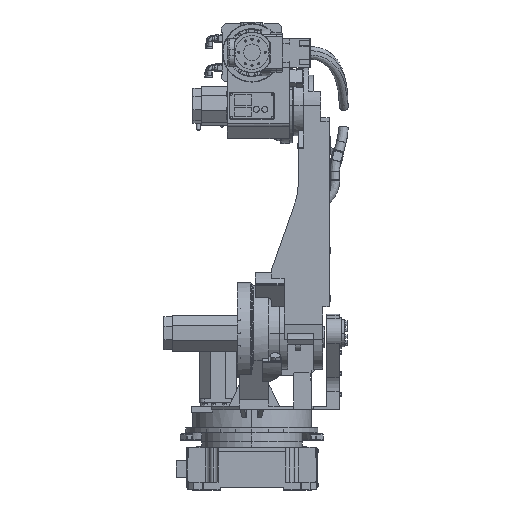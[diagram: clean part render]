
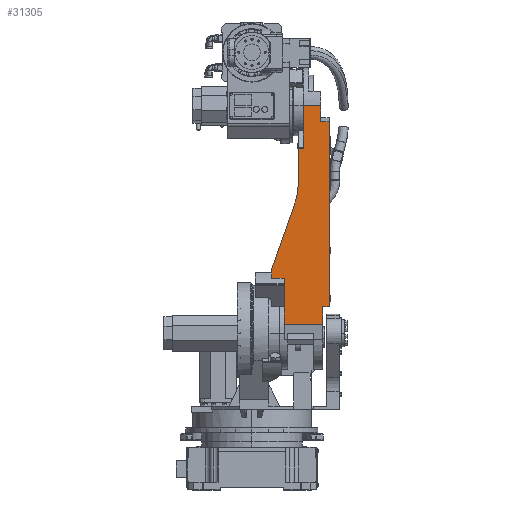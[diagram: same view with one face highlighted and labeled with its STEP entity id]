
A CAD part, top view. The second image highlights one B-rep face of the part: STEP entity #31305.
In plain terms, the highlighted planar face has unit normal (0, 0, 1).
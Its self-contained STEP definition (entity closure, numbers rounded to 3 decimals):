
#4540 = B_SPLINE_CURVE_WITH_KNOTS ( 'NONE', 3,
 ( #34522, #34486, #34510, #34527 ),
 .UNSPECIFIED., .F., .F.,
 ( 4, 4 ),
 ( 0., 1. ),
 .UNSPECIFIED. ) ;
#21334 = ORIENTED_EDGE ( 'NONE', *, *, #33761, .T. ) ;
#21336 = ORIENTED_EDGE ( 'NONE', *, *, #33788, .T. ) ;
#21338 = ORIENTED_EDGE ( 'NONE', *, *, #33694, .T. ) ;
#21341 = ORIENTED_EDGE ( 'NONE', *, *, #33724, .T. ) ;
#21344 = ORIENTED_EDGE ( 'NONE', *, *, #34337, .T. ) ;
#21346 = ORIENTED_EDGE ( 'NONE', *, *, #35472, .T. ) ;
#21348 = ORIENTED_EDGE ( 'NONE', *, *, #35502, .T. ) ;
#21350 = ORIENTED_EDGE ( 'NONE', *, *, #35555, .T. ) ;
#21352 = ORIENTED_EDGE ( 'NONE', *, *, #33832, .T. ) ;
#21355 = ORIENTED_EDGE ( 'NONE', *, *, #33996, .T. ) ;
#21356 = ORIENTED_EDGE ( 'NONE', *, *, #33951, .T. ) ;
#21358 = ORIENTED_EDGE ( 'NONE', *, *, #33741, .T. ) ;
#21361 = ORIENTED_EDGE ( 'NONE', *, *, #34051, .T. ) ;
#21365 = ORIENTED_EDGE ( 'NONE', *, *, #34251, .T. ) ;
#21367 = ORIENTED_EDGE ( 'NONE', *, *, #34207, .T. ) ;
#21370 = ORIENTED_EDGE ( 'NONE', *, *, #34088, .T. ) ;
#21371 = ORIENTED_EDGE ( 'NONE', *, *, #34409, .T. ) ;
#22381 = PLANE ( 'NONE',  #25915 ) ;
#22404 = FACE_OUTER_BOUND ( 'NONE', #95285, .T. ) ;
#22414 = CARTESIAN_POINT ( 'NONE',  ( 370.95, 21.177, 180. ) ) ;
#22415 = DIRECTION ( 'NONE',  ( 0., 0., 1. ) ) ;
#22416 = DIRECTION ( 'NONE',  ( 0., 1., 0. ) ) ;
#25915 = AXIS2_PLACEMENT_3D ( 'NONE', #22414, #22415, #22416 ) ;
#28110 = CARTESIAN_POINT ( 'NONE',  ( 153., 558.42, 180. ) ) ;
#28112 = LINE ( 'NONE', #28110, #28912 ) ;
#28128 = DIRECTION ( 'NONE',  ( 0., -1., 0. ) ) ;
#28221 = CARTESIAN_POINT ( 'NONE',  ( 229.25, 41.84, 180. ) ) ;
#28242 = LINE ( 'NONE', #28221, #28931 ) ;
#28246 = DIRECTION ( 'NONE',  ( 1., 0., 0. ) ) ;
#28269 = LINE ( 'NONE', #28283, #28941 ) ;
#28283 = CARTESIAN_POINT ( 'NONE',  ( 229.25, 874.999, 180. ) ) ;
#28284 = DIRECTION ( 'NONE',  ( -1., 0., 0. ) ) ;
#28413 = LINE ( 'NONE', #28515, #28949 ) ;
#28515 = CARTESIAN_POINT ( 'NONE',  ( 229.25, 258.545, 180. ) ) ;
#28516 = DIRECTION ( 'NONE',  ( 1., 0., 0. ) ) ;
#28576 = CARTESIAN_POINT ( 'NONE',  ( 153., 558.42, 180. ) ) ;
#28581 = LINE ( 'NONE', #28576, #28962 ) ;
#28585 = DIRECTION ( 'NONE',  ( 0., -1., 0. ) ) ;
#28702 = LINE ( 'NONE', #28703, #28988 ) ;
#28703 = CARTESIAN_POINT ( 'NONE',  ( 325., 558.42, 180. ) ) ;
#28704 = DIRECTION ( 'NONE',  ( 0., 1., 0. ) ) ;
#28912 = VECTOR ( 'NONE', #28128, 1000. ) ;
#28931 = VECTOR ( 'NONE', #28246, 1000. ) ;
#28941 = VECTOR ( 'NONE', #28284, 1000. ) ;
#28949 = VECTOR ( 'NONE', #28516, 1000. ) ;
#28962 = VECTOR ( 'NONE', #28585, 1000. ) ;
#28988 = VECTOR ( 'NONE', #28704, 1000. ) ;
#29054 = VECTOR ( 'NONE', #33556, 1000. ) ;
#29136 = VECTOR ( 'NONE', #33701, 1000. ) ;
#29185 = VECTOR ( 'NONE', #33913, 1000. ) ;
#29222 = AXIS2_PLACEMENT_3D ( 'NONE', #34105, #34107, #34108 ) ;
#29228 = CIRCLE ( 'NONE', #29222, 30. ) ;
#29444 = CIRCLE ( 'NONE', #29447, 300. ) ;
#29447 = AXIS2_PLACEMENT_3D ( 'NONE', #34745, #34748, #34751 ) ;
#29549 = VECTOR ( 'NONE', #35247, 1000. ) ;
#29665 = VECTOR ( 'NONE', #35862, 1000. ) ;
#30545 = VECTOR ( 'NONE', #37703, 1000. ) ;
#30561 = VECTOR ( 'NONE', #37657, 1000. ) ;
#30624 = VECTOR ( 'NONE', #37765, 1000. ) ;
#31305 = ADVANCED_FACE ( 'NONE', ( #22404 ), #22381, .T. ) ;
#33542 = LINE ( 'NONE', #33553, #29054 ) ;
#33553 = CARTESIAN_POINT ( 'NONE',  ( 243.502, 558.42, 180. ) ) ;
#33556 = DIRECTION ( 'NONE',  ( 0., -1., 0. ) ) ;
#33683 = LINE ( 'NONE', #33685, #29136 ) ;
#33685 = CARTESIAN_POINT ( 'NONE',  ( 229.25, 1075., 180. ) ) ;
#33694 = EDGE_CURVE ( 'NONE', #77485, #98234, #28112, .T. ) ;
#33701 = DIRECTION ( 'NONE',  ( -1., 0., 0. ) ) ;
#33724 = EDGE_CURVE ( 'NONE', #98234, #76966, #28242, .T. ) ;
#33741 = EDGE_CURVE ( 'NONE', #76967, #76965, #28269, .T. ) ;
#33761 = EDGE_CURVE ( 'NONE', #76969, #76962, #28413, .T. ) ;
#33788 = EDGE_CURVE ( 'NONE', #76962, #77485, #28581, .T. ) ;
#33832 = EDGE_CURVE ( 'NONE', #77071, #77069, #28702, .T. ) ;
#33898 = LINE ( 'NONE', #33910, #29185 ) ;
#33910 = CARTESIAN_POINT ( 'NONE',  ( 219., 558.42, 180. ) ) ;
#33913 = DIRECTION ( 'NONE',  ( 0., -1., 0. ) ) ;
#33951 = EDGE_CURVE ( 'NONE', #76961, #76967, #33542, .T. ) ;
#33996 = EDGE_CURVE ( 'NONE', #77069, #76961, #33683, .T. ) ;
#34051 = EDGE_CURVE ( 'NONE', #76965, #77080, #33898, .T. ) ;
#34088 = EDGE_CURVE ( 'NONE', #77072, #77075, #29228, .T. ) ;
#34105 = CARTESIAN_POINT ( 'NONE',  ( 123., 294.876, 180. ) ) ;
#34107 = DIRECTION ( 'NONE',  ( 0., 0., 1. ) ) ;
#34108 = DIRECTION ( 'NONE',  ( 1., 0., 0. ) ) ;
#34207 = EDGE_CURVE ( 'NONE', #77083, #77072, #4540, .T. ) ;
#34251 = EDGE_CURVE ( 'NONE', #77080, #77083, #29444, .T. ) ;
#34337 = EDGE_CURVE ( 'NONE', #76966, #77094, #35239, .T. ) ;
#34409 = EDGE_CURVE ( 'NONE', #77075, #76969, #35830, .T. ) ;
#34486 = CARTESIAN_POINT ( 'NONE',  ( 166.223, 508.046, 180. ) ) ;
#34510 = CARTESIAN_POINT ( 'NONE',  ( 130.462, 406.441, 180. ) ) ;
#34522 = CARTESIAN_POINT ( 'NONE',  ( 201.984, 609.651, 180. ) ) ;
#34527 = CARTESIAN_POINT ( 'NONE',  ( 94.702, 304.836, 180. ) ) ;
#34745 = CARTESIAN_POINT ( 'NONE',  ( -81., 709.25, 180. ) ) ;
#34748 = DIRECTION ( 'NONE',  ( 0., 0., -1. ) ) ;
#34751 = DIRECTION ( 'NONE',  ( 0., -1., 0. ) ) ;
#35239 = LINE ( 'NONE', #35245, #29549 ) ;
#35245 = CARTESIAN_POINT ( 'NONE',  ( 335., 558.42, 180. ) ) ;
#35247 = DIRECTION ( 'NONE',  ( 0., 1., 0. ) ) ;
#35472 = EDGE_CURVE ( 'NONE', #77094, #77116, #37652, .T. ) ;
#35502 = EDGE_CURVE ( 'NONE', #77116, #77117, #37688, .T. ) ;
#35555 = EDGE_CURVE ( 'NONE', #77117, #77071, #37763, .T. ) ;
#35830 = LINE ( 'NONE', #35833, #29665 ) ;
#35833 = CARTESIAN_POINT ( 'NONE',  ( 93., 558.42, 180. ) ) ;
#35862 = DIRECTION ( 'NONE',  ( 0., -1., 0. ) ) ;
#37652 = LINE ( 'NONE', #37655, #30561 ) ;
#37655 = CARTESIAN_POINT ( 'NONE',  ( 229.25, 125., 180. ) ) ;
#37657 = DIRECTION ( 'NONE',  ( 1., 0., 0. ) ) ;
#37688 = LINE ( 'NONE', #37699, #30545 ) ;
#37699 = CARTESIAN_POINT ( 'NONE',  ( 365.5, 572.16, 180. ) ) ;
#37703 = DIRECTION ( 'NONE',  ( 0., 1., 0. ) ) ;
#37763 = LINE ( 'NONE', #37764, #30624 ) ;
#37764 = CARTESIAN_POINT ( 'NONE',  ( 345.25, 1000.442, 180. ) ) ;
#37765 = DIRECTION ( 'NONE',  ( -1., 0., 0. ) ) ;
#76961 = VERTEX_POINT ( 'NONE', #91792 ) ;
#76962 = VERTEX_POINT ( 'NONE', #91793 ) ;
#76965 = VERTEX_POINT ( 'NONE', #91796 ) ;
#76966 = VERTEX_POINT ( 'NONE', #91797 ) ;
#76967 = VERTEX_POINT ( 'NONE', #91798 ) ;
#76969 = VERTEX_POINT ( 'NONE', #91800 ) ;
#77069 = VERTEX_POINT ( 'NONE', #91900 ) ;
#77071 = VERTEX_POINT ( 'NONE', #91902 ) ;
#77072 = VERTEX_POINT ( 'NONE', #91903 ) ;
#77075 = VERTEX_POINT ( 'NONE', #91906 ) ;
#77080 = VERTEX_POINT ( 'NONE', #91911 ) ;
#77083 = VERTEX_POINT ( 'NONE', #91914 ) ;
#77094 = VERTEX_POINT ( 'NONE', #91925 ) ;
#77116 = VERTEX_POINT ( 'NONE', #91947 ) ;
#77117 = VERTEX_POINT ( 'NONE', #91948 ) ;
#77485 = VERTEX_POINT ( 'NONE', #92316 ) ;
#91792 = CARTESIAN_POINT ( 'NONE',  ( 243.502, 1075., 180. ) ) ;
#91793 = CARTESIAN_POINT ( 'NONE',  ( 153., 258.545, 180. ) ) ;
#91796 = CARTESIAN_POINT ( 'NONE',  ( 219., 874.999, 180. ) ) ;
#91797 = CARTESIAN_POINT ( 'NONE',  ( 335., 41.84, 180. ) ) ;
#91798 = CARTESIAN_POINT ( 'NONE',  ( 243.502, 874.999, 180. ) ) ;
#91800 = CARTESIAN_POINT ( 'NONE',  ( 93., 258.545, 180. ) ) ;
#91900 = CARTESIAN_POINT ( 'NONE',  ( 325., 1075., 180. ) ) ;
#91902 = CARTESIAN_POINT ( 'NONE',  ( 325., 1000.442, 180. ) ) ;
#91903 = CARTESIAN_POINT ( 'NONE',  ( 94.702, 304.836, 180. ) ) ;
#91906 = CARTESIAN_POINT ( 'NONE',  ( 93., 294.876, 180. ) ) ;
#91911 = CARTESIAN_POINT ( 'NONE',  ( 219., 709.25, 180. ) ) ;
#91914 = CARTESIAN_POINT ( 'NONE',  ( 201.984, 609.651, 180. ) ) ;
#91925 = CARTESIAN_POINT ( 'NONE',  ( 335., 125., 180. ) ) ;
#91947 = CARTESIAN_POINT ( 'NONE',  ( 365.5, 125., 180. ) ) ;
#91948 = CARTESIAN_POINT ( 'NONE',  ( 365.5, 1000.442, 180. ) ) ;
#92316 = CARTESIAN_POINT ( 'NONE',  ( 153., 193.026, 180. ) ) ;
#93732 = CARTESIAN_POINT ( 'NONE',  ( 153., 41.84, 180. ) ) ;
#95285 = EDGE_LOOP ( 'NONE', ( #21334, #21336, #21338, #21341, #21344, #21346, #21348, #21350, #21352, #21355, #21356, #21358, #21361, #21365, #21367, #21370, #21371 ) ) ;
#98234 = VERTEX_POINT ( 'NONE', #93732 ) ;
